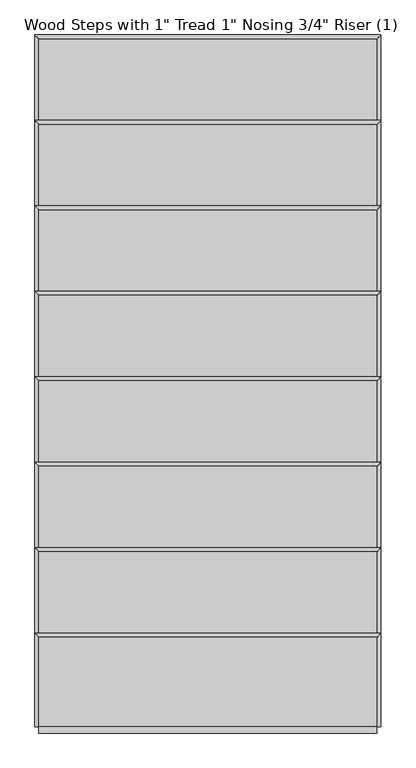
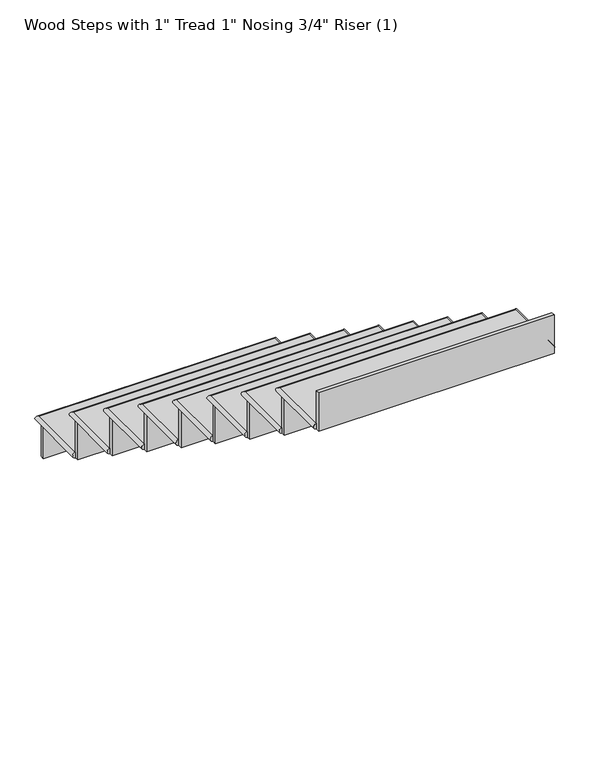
"""IFC4 building model written with IfcOpenShell, lengths in millimetres: stair flight geometry."""

import ifcopenshell
import ifcopenshell.guid

model = None  # the IFC model being written
_history = None  # IfcOwnerHistory: only IFC2X3 demands one
_inside = {}  # id of a spatial element -> (the spatial element, [elements in it])
_under = {}  # id of a project, library or spatial element -> (it, [spatial elements below it])
_declared = {}  # id of a project -> (the project, [libraries it declares])
_typed = {}  # id of a type object -> (the type object, [elements of that type])
_made_of = {}  # id of a material, layer set ... -> (it, [elements and type objects made of it])


def new_model(schema):
    """Start an empty IFC model of exactly this schema.

    Asked for "IFC4X3", IfcOpenShell would pick the latest addendum, in which some entities
    have other attributes; the version numbers below select the first issue.
    IFC2X3 requires an IfcOwnerHistory on every rooted entity: one is made here for all.
    """
    global model, _history
    if schema == "IFC4X3":
        model = ifcopenshell.file(schema_version=(4, 3, 0, 0))
    else:
        model = ifcopenshell.file(schema=schema)
    _inside.clear()
    _under.clear()
    _declared.clear()
    _typed.clear()
    _made_of.clear()
    _history = None
    if model.schema == "IFC2X3":
        org = make("IfcOrganization", Name="unknown")
        user = make(
            "IfcPersonAndOrganization",
            ThePerson=make("IfcPerson", FamilyName="unknown"),
            TheOrganization=org,
        )
        app = make(
            "IfcApplication",
            ApplicationDeveloper=org,
            Version="unknown",
            ApplicationFullName="unknown",
            ApplicationIdentifier="unknown",
        )
        _history = make(
            "IfcOwnerHistory",
            OwningUser=user,
            OwningApplication=app,
            ChangeAction="ADDED",
            CreationDate=0,
        )
    return model


def make(cls, **values):
    """One entity of the class cls with the attributes given. An attribute that is None is left unset."""
    return model.create_entity(
        cls, **{name: value for name, value in values.items() if value is not None}
    )


def rooted(cls, **values):
    """An entity with a GlobalId (a new one), such as an element, a storey or a relation."""
    return make(cls, GlobalId=ifcopenshell.guid.new(), OwnerHistory=_history, **values)


def si_unit(unit_type, name, prefix=None):
    """IfcSIUnit, for example si_unit("LENGTHUNIT", "METRE", prefix="MILLI")."""
    return make("IfcSIUnit", UnitType=unit_type, Prefix=prefix, Name=name)


def assignment(units):
    """IfcUnitAssignment: the units of a project."""
    return None if units is None else make("IfcUnitAssignment", Units=units)


def point(xyz):
    """IfcCartesianPoint."""
    return None if xyz is None else make("IfcCartesianPoint", Coordinates=xyz)


def direction(xyz):
    """IfcDirection."""
    return None if xyz is None else make("IfcDirection", DirectionRatios=xyz)


def frame(location, z_axis=None, x_axis=None):
    """IfcAxis2Placement3D, a coordinate frame: its origin and axes. An axis left out is left unset."""
    return make(
        "IfcAxis2Placement3D",
        Location=point(location),
        Axis=direction(z_axis),
        RefDirection=direction(x_axis),
    )


def origin():
    """The frame at (0, 0, 0) with its axes left unset."""
    return frame((0.0, 0.0, 0.0))


def place(relative_to, where):
    """IfcLocalPlacement: puts the frame where relative to a parent placement (None: the world)."""
    return make(
        "IfcLocalPlacement", PlacementRelTo=relative_to, RelativePlacement=where
    )


def context(
    kind, dimensions, precision=None, world=None, true_north=None, identifier=None
):
    """IfcGeometricRepresentationContext, for example the 3D "Model" context."""
    return make(
        "IfcGeometricRepresentationContext",
        ContextIdentifier=identifier,
        ContextType=kind,
        CoordinateSpaceDimension=dimensions,
        Precision=precision,
        WorldCoordinateSystem=world,
        TrueNorth=true_north,
    )


def project(units=None, contexts=None):
    """IfcProject with its units and contexts."""
    return rooted(
        "IfcProject",
        Name="project",
        RepresentationContexts=contexts,
        UnitsInContext=assignment(units),
    )


def spatial(cls, under=None, at=None, **own):
    """A site, building, storey or space (cls), placed at a placement, below another one or the project."""
    s = rooted(cls, ObjectPlacement=at, **own)
    if under is not None:
        _under.setdefault(under.id(), (under, []))[1].append(s)
    return s


def circle_curve(where, radius):
    """IfcCircle in the frame where."""
    return make("IfcCircle", Position=where, Radius=radius)


def ellipse_curve(where, semi_axis1, semi_axis2):
    """IfcEllipse in the frame where."""
    return make(
        "IfcEllipse", Position=where, SemiAxis1=semi_axis1, SemiAxis2=semi_axis2
    )


def faces_of(points, faces, orient=None, outer=None):
    """IfcFace entities. A face is a list of loops; a loop is a list of indices into points, from 0.

    orient and outer hold one flag for each loop. By default every Orientation is true, the
    first loop of a face is its IfcFaceOuterBound and the others are IfcFaceBound.
    """
    made = []
    for i, loops in enumerate(faces):
        bounds = []
        for j, loop in enumerate(loops):
            is_outer = j == 0 if outer is None else outer[i][j]
            bounds.append(
                make(
                    "IfcFaceOuterBound" if is_outer else "IfcFaceBound",
                    Bound=make("IfcPolyLoop", Polygon=[points[k] for k in loop]),
                    Orientation=True if orient is None else orient[i][j],
                )
            )
        made.append(make("IfcFace", Bounds=bounds))
    return made


def faceted_brep(points, faces, orient=None, outer=None, voids=None):
    """IfcFacetedBrep: a solid bounded by flat faces; with voids (closed shells), ...WithVoids."""
    shared = [point(p) for p in points]
    hull = make("IfcClosedShell", CfsFaces=faces_of(shared, faces, orient, outer))
    if voids is None:
        return make("IfcFacetedBrep", Outer=hull)
    return make(
        "IfcFacetedBrepWithVoids",
        Outer=hull,
        Voids=[
            make(cls, CfsFaces=faces_of(shared, fs, o, b)) for cls, fs, o, b in voids
        ],
    )


def shape(context_of_items, identifier, shape_type, items):
    """IfcShapeRepresentation: the items that make up one representation, for example the "Body"."""
    return make(
        "IfcShapeRepresentation",
        ContextOfItems=context_of_items,
        RepresentationIdentifier=identifier,
        RepresentationType=shape_type,
        Items=items,
    )


def source(mapping_origin, context_of_items, identifier, shape_type, items):
    """IfcRepresentationMap: a shape defined once, which mapped items show again and again."""
    return make(
        "IfcRepresentationMap",
        MappingOrigin=mapping_origin,
        MappedRepresentation=shape(context_of_items, identifier, shape_type, items),
    )


def transform(
    local_origin,
    x_axis=None,
    y_axis=None,
    z_axis=None,
    scale=None,
    scale2=None,
    scale3=None,
    uniform=True,
):
    """IfcCartesianTransformationOperator3D, or its non-uniform kind. x_axis, y_axis, z_axis: its Axis1, 2, 3."""
    if uniform:
        return make(
            "IfcCartesianTransformationOperator3D",
            Axis1=direction(x_axis),
            Axis2=direction(y_axis),
            LocalOrigin=point(local_origin),
            Scale=scale,
            Axis3=direction(z_axis),
        )
    return make(
        "IfcCartesianTransformationOperator3DnonUniform",
        Axis1=direction(x_axis),
        Axis2=direction(y_axis),
        LocalOrigin=point(local_origin),
        Scale=scale,
        Axis3=direction(z_axis),
        Scale2=scale2,
        Scale3=scale3,
    )


def mapped(mapping_source, mapping_target):
    """IfcMappedItem: shows the shape of a source again, moved by a transform."""
    return make(
        "IfcMappedItem", MappingSource=mapping_source, MappingTarget=mapping_target
    )


def made_of(thing, what):
    """Note that an element or type object is made of a material, layer set ...; save() writes the relation."""
    if what is not None:
        _made_of.setdefault(what.id(), (what, []))[1].append(thing)
    return thing


def element(
    cls,
    number,
    at=None,
    inside=None,
    cuts=None,
    type_object=None,
    material=None,
    context=None,
    identifier="Body",
    shape_type=None,
    held_by="IfcProductDefinitionShape",
    body=None,
    shapes=None,
    **own,
):
    """One element of the class cls, such as IfcWall. Its Tag is "e" and its number.

    at: its placement. inside: the storey or other place that contains it. cuts: it is an
    opening in that element (IfcRelVoidsElement). A single representation is given by context,
    identifier, shape_type and body (its items); several are given by shapes. held_by: the class
    of the entity that holds the representations. save() writes the other relations.
    """
    e = rooted(cls, Tag="e%d" % number, ObjectPlacement=at, **own)
    if body is not None:
        shapes = [shape(context, identifier, shape_type, body)]
    if shapes is not None:
        e.Representation = make(held_by, Representations=shapes)
    if inside is not None:
        _inside.setdefault(inside.id(), (inside, []))[1].append(e)
    if cuts is not None:
        rooted(
            "IfcRelVoidsElement", RelatingBuildingElement=cuts, RelatedOpeningElement=e
        )
    if type_object is not None:
        _typed.setdefault(type_object.id(), (type_object, []))[1].append(e)
    return made_of(e, material)


def aggregate(whole, parts):
    """IfcRelAggregates: a whole, such as a stair, and the parts it consists of."""
    return rooted("IfcRelAggregates", RelatingObject=whole, RelatedObjects=parts)


def save(model, path):
    """Write the relations noted so far, then the file.

    IfcRelAggregates (storeys below a building ...), IfcRelContainedInSpatialStructure (elements
    in a storey), IfcRelDefinesByType, IfcRelAssociatesMaterial and IfcRelDeclares: one each for
    every whole, place, type object, material and project.
    """
    for whole, parts in _under.values():
        aggregate(whole, parts)
    for where, things in _inside.values():
        rooted(
            "IfcRelContainedInSpatialStructure",
            RelatedElements=things,
            RelatingStructure=where,
        )
    for kind, things in _typed.values():
        rooted("IfcRelDefinesByType", RelatedObjects=things, RelatingType=kind)
    for what, things in _made_of.values():
        rooted("IfcRelAssociatesMaterial", RelatedObjects=things, RelatingMaterial=what)
    for by, libraries in _declared.values():
        rooted("IfcRelDeclares", RelatingContext=by, RelatedDefinitions=libraries)
    model.write(path)


def plane_surface(at):
    """IfcPlane: the flat surface through the origin of the frame at, square to its z axis."""
    return make("IfcPlane", Position=at)


def cylinder_surface(at, radius):
    """IfcCylindricalSurface: all points at the distance radius from the z axis of the frame at."""
    return make("IfcCylindricalSurface", Position=at, Radius=radius)


def advanced_brep(points, edges, surfaces, faces):
    """IfcAdvancedBrep: a solid bounded by faces that lie on surfaces and meet in shared edges.

    An edge is (start, end): straight between two places in points (the first is 0);
    or (start, end, curve); or (start, end, curve, False) where it runs against its curve.
    A face is (place in surfaces, loops), or (place, loops, False) where it looks against
    its surface's normal. A loop lists edges by number (the first is 1), with a minus sign
    where the edge is run from its end to its start. The first loop is the outer one.
    """
    corners = [point(p) for p in points]
    vertices = [make("IfcVertexPoint", VertexGeometry=c) for c in corners]
    made = []
    for start, end, *more in edges:
        made.append(
            make(
                "IfcEdgeCurve",
                EdgeStart=vertices[start],
                EdgeEnd=vertices[end],
                EdgeGeometry=more[0] if more else make("IfcPolyline", Points=[corners[start], corners[end]]),
                SameSense=more[1] if len(more) > 1 else True,
            )
        )
    hull = []
    for where, loops, *sense in faces:
        bounds = []
        for j, loop in enumerate(loops):
            ring = [make("IfcOrientedEdge", EdgeElement=made[abs(k) - 1], Orientation=k > 0) for k in loop]
            bounds.append(
                make(
                    "IfcFaceOuterBound" if j == 0 else "IfcFaceBound",
                    Bound=make("IfcEdgeLoop", EdgeList=ring),
                    Orientation=True,
                )
            )
        hull.append(make("IfcAdvancedFace", Bounds=bounds, FaceSurface=surfaces[where], SameSense=sense[0] if sense else True))
    return make("IfcAdvancedBrep", Outer=make("IfcClosedShell", CfsFaces=hull))


def stair_flight_cb7bf4fe(model_context):
    return source(origin(), model_context, "Body", "SolidModel", [
        advanced_brep(
        [(-10517.8887578, -1421.1234188, 181.1617647), (-9463.7887578, -1421.1234188, 181.1617647), (-9463.7887578, -1141.7234188, 181.1617647), (-10517.8887578, -1141.7234188, 181.1617647), (-9463.7887578, -1421.1234188, 155.7617647), (-10517.8887578, -1421.1234188, 155.7617647), (-10517.8887578, -1141.7234188, 155.7617647), (-9463.7887578, -1141.7234188, 155.7617647)],
        [
            (0, 1),
            (1, 2),
            (2, 3),
            (3, 0),
            (4, 5),
            (5, 6),
            (6, 7),
            (7, 4),
            (0, 5, circle_curve(frame((-10517.8887578, -1421.1234188, 168.4617647), z_axis=(0.0, -1.0, 0.0), x_axis=(1.0, 0.0, 0.0)), 12.7)),
            (4, 1, circle_curve(frame((-9463.7887578, -1421.1234188, 168.4617647), z_axis=(0.0, -1.0, 0.0), x_axis=(-1.0, 0.0, 0.0)), 12.7)),
            (3, 6, ellipse_curve(frame((-10517.8887578, -1141.7234188, 168.4617647), z_axis=(-0.7071067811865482, -0.7071067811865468, 0.0), x_axis=(0.7071067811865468, -0.7071067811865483, 0.0)), 17.9605122, 12.7)),
            (2, 7, ellipse_curve(frame((-9463.7887578, -1141.7234188, 168.4617647), z_axis=(-0.7071067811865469, 0.7071067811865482, 0.0), x_axis=(-0.707106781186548, -0.7071067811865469, 0.0)), 17.9605122, 12.7)),
        ],
        [
            plane_surface(frame((-9463.7887578, -1129.0234188, 181.1617647), z_axis=(0.0, 0.0, 1.0), x_axis=(0.0, 1.0, 0.0))),
            plane_surface(frame((-9463.7887578, -1129.0234188, 155.7617647), z_axis=(0.0, 0.0, -1.0), x_axis=(0.0, -1.0, 0.0))),
            plane_surface(frame((-10517.8887578, -1421.1234188, 181.1617647), z_axis=(0.0, -1.0, 0.0), x_axis=(0.0, 0.0, -1.0))),
            cylinder_surface(frame((-10517.8887578, -1421.1234188, 168.4617647), z_axis=(0.0, -1.0, 0.0), x_axis=(1.0, 0.0, 0.0)), 12.7),
            cylinder_surface(frame((-10517.8887578, -1141.7234188, 168.4617647), z_axis=(-1.0, 0.0, 0.0), x_axis=(0.0, -1.0, 0.0)), 12.7),
            cylinder_surface(frame((-9463.7887578, -1141.7234188, 168.4617647), z_axis=(0.0, 1.0, 0.0), x_axis=(-1.0, 0.0, 0.0)), 12.7),
        ],
        [
            (0, [[1, 2, 3, 4]]),
            (1, [[5, 6, 7, 8]]),
            (2, [[-1, 9, -5, 10]]),
            (3, [[-9, -4, 11, -6]]),
            (4, [[-11, -3, 12, -7]]),
            (5, [[-12, -2, -10, -8]]),
        ],
    ),
        faceted_brep([(-10517.8887578, -1154.4234188, 155.7617647), (-10517.8887578, -1154.4234188, 0.0), (-10517.8887578, -1173.4734188, 0.0), (-10517.8887578, -1173.4734188, 155.7617647), (-9463.7887578, -1154.4234188, 155.7617647), (-9463.7887578, -1173.4734188, 155.7617647), (-9463.7887578, -1173.4734188, 0.0), (-9463.7887578, -1154.4234188, 0.0)], [[[0, 1, 2, 3]], [[4, 5, 6, 7]], [[1, 0, 4, 7]], [[2, 1, 7, 6]], [[3, 2, 6, 5]], [[0, 3, 5, 4]]]),
        advanced_brep(
        [(-10517.8887578, -1687.8234188, 362.3235294), (-9463.7887578, -1687.8234188, 362.3235294), (-9463.7887578, -1408.4234188, 362.3235294), (-10517.8887578, -1408.4234188, 362.3235294), (-9463.7887578, -1687.8234188, 336.9235294), (-10517.8887578, -1687.8234188, 336.9235294), (-10517.8887578, -1408.4234188, 336.9235294), (-9463.7887578, -1408.4234188, 336.9235294)],
        [
            (0, 1),
            (1, 2),
            (2, 3),
            (3, 0),
            (4, 5),
            (5, 6),
            (6, 7),
            (7, 4),
            (0, 5, circle_curve(frame((-10517.8887578, -1687.8234188, 349.6235294), z_axis=(0.0, -1.0, 0.0), x_axis=(1.0, 0.0, 0.0)), 12.7)),
            (4, 1, circle_curve(frame((-9463.7887578, -1687.8234188, 349.6235294), z_axis=(0.0, -1.0, 0.0), x_axis=(-1.0, 0.0, 0.0)), 12.7)),
            (3, 6, ellipse_curve(frame((-10517.8887578, -1408.4234188, 349.6235294), z_axis=(-0.7071067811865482, -0.7071067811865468, 0.0), x_axis=(0.7071067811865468, -0.7071067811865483, 0.0)), 17.9605122, 12.7)),
            (2, 7, ellipse_curve(frame((-9463.7887578, -1408.4234188, 349.6235294), z_axis=(-0.7071067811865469, 0.7071067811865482, 0.0), x_axis=(-0.707106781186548, -0.7071067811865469, 0.0)), 17.9605122, 12.7)),
        ],
        [
            plane_surface(frame((-9463.7887578, -1129.0234188, 362.3235294), z_axis=(0.0, 0.0, 1.0), x_axis=(0.0, 1.0, 0.0))),
            plane_surface(frame((-9463.7887578, -1129.0234188, 336.9235294), z_axis=(0.0, 0.0, -1.0), x_axis=(0.0, -1.0, 0.0))),
            plane_surface(frame((-10517.8887578, -1687.8234188, 362.3235294), z_axis=(0.0, -1.0, 0.0), x_axis=(0.0, 0.0, -1.0))),
            cylinder_surface(frame((-10517.8887578, -1687.8234188, 349.6235294), z_axis=(0.0, -1.0, 0.0), x_axis=(1.0, 0.0, 0.0)), 12.7),
            cylinder_surface(frame((-10517.8887578, -1408.4234188, 349.6235294), z_axis=(-1.0, 0.0, 0.0), x_axis=(0.0, -1.0, 0.0)), 12.7),
            cylinder_surface(frame((-9463.7887578, -1408.4234188, 349.6235294), z_axis=(0.0, 1.0, 0.0), x_axis=(-1.0, 0.0, 0.0)), 12.7),
        ],
        [
            (0, [[1, 2, 3, 4]]),
            (1, [[5, 6, 7, 8]]),
            (2, [[-1, 9, -5, 10]]),
            (3, [[-9, -4, 11, -6]]),
            (4, [[-11, -3, 12, -7]]),
            (5, [[-12, -2, -10, -8]]),
        ],
    ),
        faceted_brep([(-10517.8887578, -1421.1234188, 336.9235294), (-10517.8887578, -1421.1234188, 155.7617647), (-10517.8887578, -1440.1734188, 155.7617647), (-10517.8887578, -1440.1734188, 336.9235294), (-9463.7887578, -1421.1234188, 336.9235294), (-9463.7887578, -1440.1734188, 336.9235294), (-9463.7887578, -1440.1734188, 155.7617647), (-9463.7887578, -1421.1234188, 155.7617647)], [[[0, 1, 2, 3]], [[4, 5, 6, 7]], [[1, 0, 4, 7]], [[2, 1, 7, 6]], [[3, 2, 6, 5]], [[0, 3, 5, 4]]]),
        advanced_brep(
        [(-10517.8887578, -1954.5234188, 543.4852941), (-9463.7887578, -1954.5234188, 543.4852941), (-9463.7887578, -1675.1234188, 543.4852941), (-10517.8887578, -1675.1234188, 543.4852941), (-9463.7887578, -1954.5234188, 518.0852941), (-10517.8887578, -1954.5234188, 518.0852941), (-10517.8887578, -1675.1234188, 518.0852941), (-9463.7887578, -1675.1234188, 518.0852941)],
        [
            (0, 1),
            (1, 2),
            (2, 3),
            (3, 0),
            (4, 5),
            (5, 6),
            (6, 7),
            (7, 4),
            (0, 5, circle_curve(frame((-10517.8887578, -1954.5234188, 530.7852941), z_axis=(0.0, -1.0, 0.0), x_axis=(1.0, 0.0, 0.0)), 12.7)),
            (4, 1, circle_curve(frame((-9463.7887578, -1954.5234188, 530.7852941), z_axis=(0.0, -1.0, 0.0), x_axis=(-1.0, 0.0, 0.0)), 12.7)),
            (3, 6, ellipse_curve(frame((-10517.8887578, -1675.1234188, 530.7852941), z_axis=(-0.707106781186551, -0.707106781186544, 0.0), x_axis=(0.7071067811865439, -0.7071067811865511, 0.0)), 17.9605122, 12.7)),
            (2, 7, ellipse_curve(frame((-9463.7887578, -1675.1234188, 530.7852941), z_axis=(-0.707106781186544, 0.7071067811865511, 0.0), x_axis=(-0.707106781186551, -0.707106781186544, 0.0)), 17.9605122, 12.7)),
        ],
        [
            plane_surface(frame((-9463.7887578, -1129.0234188, 543.4852941), z_axis=(0.0, 0.0, 1.0), x_axis=(0.0, 1.0, 0.0))),
            plane_surface(frame((-9463.7887578, -1129.0234188, 518.0852941), z_axis=(0.0, 0.0, -1.0), x_axis=(0.0, -1.0, 0.0))),
            plane_surface(frame((-10517.8887578, -1954.5234188, 543.4852941), z_axis=(0.0, -1.0, 0.0), x_axis=(0.0, 0.0, -1.0))),
            cylinder_surface(frame((-10517.8887578, -1954.5234188, 530.7852941), z_axis=(0.0, -1.0, 0.0), x_axis=(1.0, 0.0, 0.0)), 12.7),
            cylinder_surface(frame((-10517.8887578, -1675.1234188, 530.7852941), z_axis=(-1.0, 0.0, 0.0), x_axis=(0.0, -1.0, 0.0)), 12.7),
            cylinder_surface(frame((-9463.7887578, -1675.1234188, 530.7852941), z_axis=(0.0, 1.0, 0.0), x_axis=(-1.0, 0.0, 0.0)), 12.7),
        ],
        [
            (0, [[1, 2, 3, 4]]),
            (1, [[5, 6, 7, 8]]),
            (2, [[-1, 9, -5, 10]]),
            (3, [[-9, -4, 11, -6]]),
            (4, [[-11, -3, 12, -7]]),
            (5, [[-12, -2, -10, -8]]),
        ],
    ),
        faceted_brep([(-10517.8887578, -1687.8234188, 518.0852941), (-10517.8887578, -1687.8234188, 336.9235294), (-10517.8887578, -1706.8734188, 336.9235294), (-10517.8887578, -1706.8734188, 518.0852941), (-9463.7887578, -1687.8234188, 518.0852941), (-9463.7887578, -1706.8734188, 518.0852941), (-9463.7887578, -1706.8734188, 336.9235294), (-9463.7887578, -1687.8234188, 336.9235294)], [[[0, 1, 2, 3]], [[4, 5, 6, 7]], [[1, 0, 4, 7]], [[2, 1, 7, 6]], [[3, 2, 6, 5]], [[0, 3, 5, 4]]]),
        advanced_brep(
        [(-10517.8887578, -2221.2234188, 724.6470588), (-9463.7887578, -2221.2234188, 724.6470588), (-9463.7887578, -1941.8234188, 724.6470588), (-10517.8887578, -1941.8234188, 724.6470588), (-9463.7887578, -2221.2234188, 699.2470588), (-10517.8887578, -2221.2234188, 699.2470588), (-10517.8887578, -1941.8234188, 699.2470588), (-9463.7887578, -1941.8234188, 699.2470588)],
        [
            (0, 1),
            (1, 2),
            (2, 3),
            (3, 0),
            (4, 5),
            (5, 6),
            (6, 7),
            (7, 4),
            (0, 5, circle_curve(frame((-10517.8887578, -2221.2234188, 711.9470588), z_axis=(0.0, -1.0, 0.0), x_axis=(1.0, 0.0, 0.0)), 12.7)),
            (4, 1, circle_curve(frame((-9463.7887578, -2221.2234188, 711.9470588), z_axis=(0.0, -1.0, 0.0), x_axis=(-1.0, 0.0, 0.0)), 12.7)),
            (3, 6, ellipse_curve(frame((-10517.8887578, -1941.8234188, 711.9470588), z_axis=(-0.7071067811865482, -0.7071067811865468, 0.0), x_axis=(0.7071067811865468, -0.7071067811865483, 0.0)), 17.9605122, 12.7)),
            (2, 7, ellipse_curve(frame((-9463.7887578, -1941.8234188, 711.9470588), z_axis=(-0.7071067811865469, 0.7071067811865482, 0.0), x_axis=(-0.707106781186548, -0.7071067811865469, 0.0)), 17.9605122, 12.7)),
        ],
        [
            plane_surface(frame((-9463.7887578, -1129.0234188, 724.6470588), z_axis=(0.0, 0.0, 1.0), x_axis=(0.0, 1.0, 0.0))),
            plane_surface(frame((-9463.7887578, -1129.0234188, 699.2470588), z_axis=(0.0, 0.0, -1.0), x_axis=(0.0, -1.0, 0.0))),
            plane_surface(frame((-10517.8887578, -2221.2234188, 724.6470588), z_axis=(0.0, -1.0, 0.0), x_axis=(0.0, 0.0, -1.0))),
            cylinder_surface(frame((-10517.8887578, -2221.2234188, 711.9470588), z_axis=(0.0, -1.0, 0.0), x_axis=(1.0, 0.0, 0.0)), 12.7),
            cylinder_surface(frame((-10517.8887578, -1941.8234188, 711.9470588), z_axis=(-1.0, 0.0, 0.0), x_axis=(0.0, -1.0, 0.0)), 12.7),
            cylinder_surface(frame((-9463.7887578, -1941.8234188, 711.9470588), z_axis=(0.0, 1.0, 0.0), x_axis=(-1.0, 0.0, 0.0)), 12.7),
        ],
        [
            (0, [[1, 2, 3, 4]]),
            (1, [[5, 6, 7, 8]]),
            (2, [[-1, 9, -5, 10]]),
            (3, [[-9, -4, 11, -6]]),
            (4, [[-11, -3, 12, -7]]),
            (5, [[-12, -2, -10, -8]]),
        ],
    ),
        faceted_brep([(-10517.8887578, -1954.5234188, 699.2470588), (-10517.8887578, -1954.5234188, 518.0852941), (-10517.8887578, -1973.5734188, 518.0852941), (-10517.8887578, -1973.5734188, 699.2470588), (-9463.7887578, -1954.5234188, 699.2470588), (-9463.7887578, -1973.5734188, 699.2470588), (-9463.7887578, -1973.5734188, 518.0852941), (-9463.7887578, -1954.5234188, 518.0852941)], [[[0, 1, 2, 3]], [[4, 5, 6, 7]], [[1, 0, 4, 7]], [[2, 1, 7, 6]], [[3, 2, 6, 5]], [[0, 3, 5, 4]]]),
        advanced_brep(
        [(-10517.8887578, -2487.9234188, 905.8088235), (-9463.7887578, -2487.9234188, 905.8088235), (-9463.7887578, -2208.5234188, 905.8088235), (-10517.8887578, -2208.5234188, 905.8088235), (-9463.7887578, -2487.9234188, 880.4088235), (-10517.8887578, -2487.9234188, 880.4088235), (-10517.8887578, -2208.5234188, 880.4088235), (-9463.7887578, -2208.5234188, 880.4088235)],
        [
            (0, 1),
            (1, 2),
            (2, 3),
            (3, 0),
            (4, 5),
            (5, 6),
            (6, 7),
            (7, 4),
            (0, 5, circle_curve(frame((-10517.8887578, -2487.9234188, 893.1088235), z_axis=(0.0, -1.0, 0.0), x_axis=(1.0, 0.0, 0.0)), 12.7)),
            (4, 1, circle_curve(frame((-9463.7887578, -2487.9234188, 893.1088235), z_axis=(0.0, -1.0, 0.0), x_axis=(-1.0, 0.0, 0.0)), 12.7)),
            (3, 6, ellipse_curve(frame((-10517.8887578, -2208.5234188, 893.1088235), z_axis=(-0.7071067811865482, -0.7071067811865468, 0.0), x_axis=(0.7071067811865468, -0.7071067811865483, 0.0)), 17.9605122, 12.7)),
            (2, 7, ellipse_curve(frame((-9463.7887578, -2208.5234188, 893.1088235), z_axis=(-0.7071067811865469, 0.7071067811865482, 0.0), x_axis=(-0.707106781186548, -0.7071067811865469, 0.0)), 17.9605122, 12.7)),
        ],
        [
            plane_surface(frame((-9463.7887578, -1129.0234188, 905.8088235), z_axis=(0.0, 0.0, 1.0), x_axis=(0.0, 1.0, 0.0))),
            plane_surface(frame((-9463.7887578, -1129.0234188, 880.4088235), z_axis=(0.0, 0.0, -1.0), x_axis=(0.0, -1.0, 0.0))),
            plane_surface(frame((-10517.8887578, -2487.9234188, 905.8088235), z_axis=(0.0, -1.0, 0.0), x_axis=(0.0, 0.0, -1.0))),
            cylinder_surface(frame((-10517.8887578, -2487.9234188, 893.1088235), z_axis=(0.0, -1.0, 0.0), x_axis=(1.0, 0.0, 0.0)), 12.7),
            cylinder_surface(frame((-10517.8887578, -2208.5234188, 893.1088235), z_axis=(-1.0, 0.0, 0.0), x_axis=(0.0, -1.0, 0.0)), 12.7),
            cylinder_surface(frame((-9463.7887578, -2208.5234188, 893.1088235), z_axis=(0.0, 1.0, 0.0), x_axis=(-1.0, 0.0, 0.0)), 12.7),
        ],
        [
            (0, [[1, 2, 3, 4]]),
            (1, [[5, 6, 7, 8]]),
            (2, [[-1, 9, -5, 10]]),
            (3, [[-9, -4, 11, -6]]),
            (4, [[-11, -3, 12, -7]]),
            (5, [[-12, -2, -10, -8]]),
        ],
    ),
        faceted_brep([(-10517.8887578, -2221.2234188, 880.4088235), (-10517.8887578, -2221.2234188, 699.2470588), (-10517.8887578, -2240.2734188, 699.2470588), (-10517.8887578, -2240.2734188, 880.4088235), (-9463.7887578, -2221.2234188, 880.4088235), (-9463.7887578, -2240.2734188, 880.4088235), (-9463.7887578, -2240.2734188, 699.2470588), (-9463.7887578, -2221.2234188, 699.2470588)], [[[0, 1, 2, 3]], [[4, 5, 6, 7]], [[1, 0, 4, 7]], [[2, 1, 7, 6]], [[3, 2, 6, 5]], [[0, 3, 5, 4]]]),
        advanced_brep(
        [(-10517.8887578, -2754.6234188, 1086.9705882), (-9463.7887578, -2754.6234188, 1086.9705882), (-9463.7887578, -2475.2234188, 1086.9705882), (-10517.8887578, -2475.2234188, 1086.9705882), (-9463.7887578, -2754.6234188, 1061.5705882), (-10517.8887578, -2754.6234188, 1061.5705882), (-10517.8887578, -2475.2234188, 1061.5705882), (-9463.7887578, -2475.2234188, 1061.5705882)],
        [
            (0, 1),
            (1, 2),
            (2, 3),
            (3, 0),
            (4, 5),
            (5, 6),
            (6, 7),
            (7, 4),
            (0, 5, circle_curve(frame((-10517.8887578, -2754.6234188, 1074.2705882), z_axis=(0.0, -1.0, 0.0), x_axis=(1.0, 0.0, 0.0)), 12.7)),
            (4, 1, circle_curve(frame((-9463.7887578, -2754.6234188, 1074.2705882), z_axis=(0.0, -1.0, 0.0), x_axis=(-1.0, 0.0, 0.0)), 12.7)),
            (3, 6, ellipse_curve(frame((-10517.8887578, -2475.2234188, 1074.2705882), z_axis=(-0.7071067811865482, -0.7071067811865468, 0.0), x_axis=(0.7071067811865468, -0.7071067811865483, 0.0)), 17.9605122, 12.7)),
            (2, 7, ellipse_curve(frame((-9463.7887578, -2475.2234188, 1074.2705882), z_axis=(-0.7071067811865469, 0.7071067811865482, 0.0), x_axis=(-0.707106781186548, -0.7071067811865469, 0.0)), 17.9605122, 12.7)),
        ],
        [
            plane_surface(frame((-9463.7887578, -1129.0234188, 1086.9705882), z_axis=(0.0, 0.0, 1.0), x_axis=(0.0, 1.0, 0.0))),
            plane_surface(frame((-9463.7887578, -1129.0234188, 1061.5705882), z_axis=(0.0, 0.0, -1.0), x_axis=(0.0, -1.0, 0.0))),
            plane_surface(frame((-10517.8887578, -2754.6234188, 1086.9705882), z_axis=(0.0, -1.0, 0.0), x_axis=(0.0, 0.0, -1.0))),
            cylinder_surface(frame((-10517.8887578, -2754.6234188, 1074.2705882), z_axis=(0.0, -1.0, 0.0), x_axis=(1.0, 0.0, 0.0)), 12.7),
            cylinder_surface(frame((-10517.8887578, -2475.2234188, 1074.2705882), z_axis=(-1.0, 0.0, 0.0), x_axis=(0.0, -1.0, 0.0)), 12.7),
            cylinder_surface(frame((-9463.7887578, -2475.2234188, 1074.2705882), z_axis=(0.0, 1.0, 0.0), x_axis=(-1.0, 0.0, 0.0)), 12.7),
        ],
        [
            (0, [[1, 2, 3, 4]]),
            (1, [[5, 6, 7, 8]]),
            (2, [[-1, 9, -5, 10]]),
            (3, [[-9, -4, 11, -6]]),
            (4, [[-11, -3, 12, -7]]),
            (5, [[-12, -2, -10, -8]]),
        ],
    ),
        faceted_brep([(-10517.8887578, -2487.9234188, 1061.5705882), (-10517.8887578, -2487.9234188, 880.4088235), (-10517.8887578, -2506.9734188, 880.4088235), (-10517.8887578, -2506.9734188, 1061.5705882), (-9463.7887578, -2487.9234188, 1061.5705882), (-9463.7887578, -2506.9734188, 1061.5705882), (-9463.7887578, -2506.9734188, 880.4088235), (-9463.7887578, -2487.9234188, 880.4088235)], [[[0, 1, 2, 3]], [[4, 5, 6, 7]], [[1, 0, 4, 7]], [[2, 1, 7, 6]], [[3, 2, 6, 5]], [[0, 3, 5, 4]]]),
        advanced_brep(
        [(-10517.8887578, -3021.3234188, 1268.1323529), (-9463.7887578, -3021.3234188, 1268.1323529), (-9463.7887578, -2741.9234188, 1268.1323529), (-10517.8887578, -2741.9234188, 1268.1323529), (-9463.7887578, -3021.3234188, 1242.7323529), (-10517.8887578, -3021.3234188, 1242.7323529), (-10517.8887578, -2741.9234188, 1242.7323529), (-9463.7887578, -2741.9234188, 1242.7323529)],
        [
            (0, 1),
            (1, 2),
            (2, 3),
            (3, 0),
            (4, 5),
            (5, 6),
            (6, 7),
            (7, 4),
            (0, 5, circle_curve(frame((-10517.8887578, -3021.3234188, 1255.4323529), z_axis=(0.0, -1.0, 0.0), x_axis=(1.0, 0.0, 0.0)), 12.7)),
            (4, 1, circle_curve(frame((-9463.7887578, -3021.3234188, 1255.4323529), z_axis=(0.0, -1.0, 0.0), x_axis=(-1.0, 0.0, 0.0)), 12.7)),
            (3, 6, ellipse_curve(frame((-10517.8887578, -2741.9234188, 1255.4323529), z_axis=(-0.707106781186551, -0.707106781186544, 0.0), x_axis=(0.7071067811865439, -0.7071067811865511, 0.0)), 17.9605122, 12.7)),
            (2, 7, ellipse_curve(frame((-9463.7887578, -2741.9234188, 1255.4323529), z_axis=(-0.707106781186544, 0.7071067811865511, 0.0), x_axis=(-0.707106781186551, -0.707106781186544, 0.0)), 17.9605122, 12.7)),
        ],
        [
            plane_surface(frame((-9463.7887578, -1129.0234188, 1268.1323529), z_axis=(0.0, 0.0, 1.0), x_axis=(0.0, 1.0, 0.0))),
            plane_surface(frame((-9463.7887578, -1129.0234188, 1242.7323529), z_axis=(0.0, 0.0, -1.0), x_axis=(0.0, -1.0, 0.0))),
            plane_surface(frame((-10517.8887578, -3021.3234188, 1268.1323529), z_axis=(0.0, -1.0, 0.0), x_axis=(0.0, 0.0, -1.0))),
            cylinder_surface(frame((-10517.8887578, -3021.3234188, 1255.4323529), z_axis=(0.0, -1.0, 0.0), x_axis=(1.0, 0.0, 0.0)), 12.7),
            cylinder_surface(frame((-10517.8887578, -2741.9234188, 1255.4323529), z_axis=(-1.0, 0.0, 0.0), x_axis=(0.0, -1.0, 0.0)), 12.7),
            cylinder_surface(frame((-9463.7887578, -2741.9234188, 1255.4323529), z_axis=(0.0, 1.0, 0.0), x_axis=(-1.0, 0.0, 0.0)), 12.7),
        ],
        [
            (0, [[1, 2, 3, 4]]),
            (1, [[5, 6, 7, 8]]),
            (2, [[-1, 9, -5, 10]]),
            (3, [[-9, -4, 11, -6]]),
            (4, [[-11, -3, 12, -7]]),
            (5, [[-12, -2, -10, -8]]),
        ],
    ),
        faceted_brep([(-10517.8887578, -2754.6234188, 1242.7323529), (-10517.8887578, -2754.6234188, 1061.5705882), (-10517.8887578, -2773.6734188, 1061.5705882), (-10517.8887578, -2773.6734188, 1242.7323529), (-9463.7887578, -2754.6234188, 1242.7323529), (-9463.7887578, -2773.6734188, 1242.7323529), (-9463.7887578, -2773.6734188, 1061.5705882), (-9463.7887578, -2754.6234188, 1061.5705882)], [[[0, 1, 2, 3]], [[4, 5, 6, 7]], [[1, 0, 4, 7]], [[2, 1, 7, 6]], [[3, 2, 6, 5]], [[0, 3, 5, 4]]]),
        advanced_brep(
        [(-10517.8887578, -3288.0234188, 1449.2941176), (-9463.7887578, -3288.0234188, 1449.2941176), (-9463.7887578, -3262.6234188, 1449.2941176), (-9463.7887578, -3008.6234188, 1449.2941176), (-10517.8887578, -3008.6234188, 1449.2941176), (-9463.7887578, -3288.0234188, 1423.8941176), (-10517.8887578, -3288.0234188, 1423.8941176), (-10517.8887578, -3008.6234188, 1423.8941176), (-9463.7887578, -3008.6234188, 1423.8941176), (-9463.7887578, -3262.6234188, 1423.8941176)],
        [
            (0, 1),
            (1, 2),
            (2, 3),
            (3, 4),
            (4, 0),
            (5, 6),
            (6, 7),
            (7, 8),
            (8, 9),
            (9, 5),
            (0, 6, circle_curve(frame((-10517.8887578, -3288.0234188, 1436.5941176), z_axis=(0.0, -1.0, 0.0), x_axis=(1.0, 0.0, 0.0)), 12.7)),
            (5, 1, circle_curve(frame((-9463.7887578, -3288.0234188, 1436.5941176), z_axis=(0.0, -1.0, 0.0), x_axis=(-1.0, 0.0, 0.0)), 12.7)),
            (4, 7, ellipse_curve(frame((-10517.8887578, -3008.6234188, 1436.5941176), z_axis=(-0.7071067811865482, -0.7071067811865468, 0.0), x_axis=(0.7071067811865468, -0.7071067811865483, 0.0)), 17.9605122, 12.7)),
            (3, 8, ellipse_curve(frame((-9463.7887578, -3008.6234188, 1436.5941176), z_axis=(-0.7071067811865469, 0.7071067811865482, 0.0), x_axis=(-0.707106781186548, -0.7071067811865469, 0.0)), 17.9605122, 12.7)),
        ],
        [
            plane_surface(frame((-9463.7887578, -3262.6234188, 1449.2941176), z_axis=(0.0, 0.0, 1.0), x_axis=(0.0, 1.0, 0.0))),
            plane_surface(frame((-9463.7887578, -3262.6234188, 1423.8941176), z_axis=(0.0, 0.0, -1.0), x_axis=(0.0, -1.0, 0.0))),
            plane_surface(frame((-10517.8887578, -3288.0234188, 1449.2941176), z_axis=(0.0, -1.0, 0.0), x_axis=(0.0, 0.0, -1.0))),
            cylinder_surface(frame((-10517.8887578, -3288.0234188, 1436.5941176), z_axis=(0.0, -1.0, 0.0), x_axis=(1.0, 0.0, 0.0)), 12.7),
            cylinder_surface(frame((-10517.8887578, -3008.6234188, 1436.5941176), z_axis=(-1.0, 0.0, 0.0), x_axis=(0.0, -1.0, 0.0)), 12.7),
            cylinder_surface(frame((-9463.7887578, -3008.6234188, 1436.5941176), z_axis=(0.0, 1.0, 0.0), x_axis=(-1.0, 0.0, 0.0)), 12.7),
        ],
        [
            (0, [[1, 2, 3, 4, 5]]),
            (1, [[6, 7, 8, 9, 10]]),
            (2, [[-1, 11, -6, 12]]),
            (3, [[-11, -5, 13, -7]]),
            (4, [[-13, -4, 14, -8]]),
            (5, [[-14, -3, -2, -12, -10, -9]]),
        ],
    ),
        faceted_brep([(-10517.8887578, -3021.3234188, 1423.8941176), (-10517.8887578, -3021.3234188, 1242.7323529), (-10517.8887578, -3040.3734188, 1242.7323529), (-10517.8887578, -3040.3734188, 1423.8941176), (-9463.7887578, -3021.3234188, 1423.8941176), (-9463.7887578, -3040.3734188, 1423.8941176), (-9463.7887578, -3040.3734188, 1242.7323529), (-9463.7887578, -3021.3234188, 1242.7323529)], [[[0, 1, 2, 3]], [[4, 5, 6, 7]], [[1, 0, 4, 7]], [[2, 1, 7, 6]], [[3, 2, 6, 5]], [[0, 3, 5, 4]]]),
        faceted_brep([(-10517.8887578, -3288.0234188, 1605.0558824), (-10517.8887578, -3288.0234188, 1423.8941176), (-10517.8887578, -3307.0734188, 1423.8941176), (-10517.8887578, -3307.0734188, 1605.0558824), (-9463.7887578, -3288.0234188, 1605.0558824), (-9463.7887578, -3307.0734188, 1605.0558824), (-9463.7887578, -3307.0734188, 1423.8941176), (-9463.7887578, -3288.0234188, 1423.8941176)], [[[0, 1, 2, 3]], [[4, 5, 6, 7]], [[1, 0, 4, 7]], [[2, 1, 7, 6]], [[3, 2, 6, 5]], [[0, 3, 5, 4]]]),
    ])


if __name__ == "__main__":
    model = new_model("IFC4")
    model_context = context("Model", 3, world=origin())
    ifc_project = project(units=[si_unit("LENGTHUNIT", "METRE", prefix="MILLI")], contexts=[model_context])
    site = spatial("IfcSite", under=ifc_project)
    building = spatial("IfcBuilding", under=site)
    placement = place(None, origin())
    stair_flight_shape = stair_flight_cb7bf4fe(model_context)
    element("IfcStairFlight", 1, ObjectType="Wood Steps with 1\" Tread 1\" Nosing 3/4\" Riser (1)", at=placement, inside=building, context=model_context, shape_type="MappedRepresentation", body=[
        mapped(stair_flight_shape, transform((0.0, 0.0, 0.0), x_axis=(1.0, 0.0, 0.0), y_axis=(0.0, 1.0, 0.0), z_axis=(0.0, 0.0, 1.0))),
    ])
    save(model, "model.ifc")
